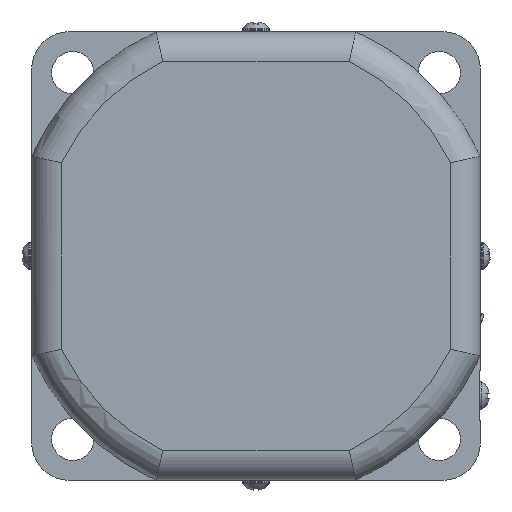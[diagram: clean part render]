
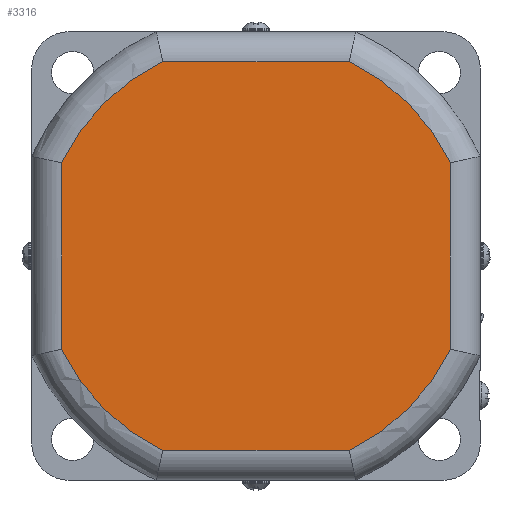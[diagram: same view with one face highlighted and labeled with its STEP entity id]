
A CAD part, left-side view. The second image highlights one B-rep face of the part: STEP entity #3316.
In plain terms, the highlighted planar face has unit normal (-1, 0, 0).
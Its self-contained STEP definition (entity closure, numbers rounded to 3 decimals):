
#307=FACE_OUTER_BOUND('',#514,.T.);
#514=EDGE_LOOP('',(#2380,#2381,#2382,#2383,#2384,#2385,#2386,#2387));
#781=LINE('',#5256,#1019);
#784=LINE('',#5276,#1022);
#785=LINE('',#5329,#1023);
#786=LINE('',#5346,#1024);
#1019=VECTOR('',#4041,37.393);
#1022=VECTOR('',#4046,37.393);
#1023=VECTOR('',#4061,37.393);
#1024=VECTOR('',#4064,37.393);
#1213=CIRCLE('',#3547,43.25);
#1214=CIRCLE('',#3551,43.25);
#1217=CIRCLE('',#3555,43.25);
#1218=CIRCLE('',#3559,43.25);
#1409=VERTEX_POINT('',#5206);
#1411=VERTEX_POINT('',#5223);
#1413=VERTEX_POINT('',#5241);
#1415=VERTEX_POINT('',#5260);
#1416=VERTEX_POINT('',#5278);
#1417=VERTEX_POINT('',#5296);
#1418=VERTEX_POINT('',#5314);
#1419=VERTEX_POINT('',#5331);
#1769=EDGE_CURVE('',#1411,#1409,#1213,.T.);
#1771=EDGE_CURVE('',#1413,#1411,#781,.T.);
#1775=EDGE_CURVE('',#1409,#1415,#784,.T.);
#1777=EDGE_CURVE('',#1416,#1413,#1214,.T.);
#1781=EDGE_CURVE('',#1415,#1417,#1217,.T.);
#1783=EDGE_CURVE('',#1418,#1416,#785,.T.);
#1785=EDGE_CURVE('',#1417,#1419,#786,.T.);
#1786=EDGE_CURVE('',#1419,#1418,#1218,.T.);
#2380=ORIENTED_EDGE('',*,*,#1785,.F.);
#2381=ORIENTED_EDGE('',*,*,#1781,.F.);
#2382=ORIENTED_EDGE('',*,*,#1775,.F.);
#2383=ORIENTED_EDGE('',*,*,#1769,.F.);
#2384=ORIENTED_EDGE('',*,*,#1771,.F.);
#2385=ORIENTED_EDGE('',*,*,#1777,.F.);
#2386=ORIENTED_EDGE('',*,*,#1783,.F.);
#2387=ORIENTED_EDGE('',*,*,#1786,.F.);
#2980=PLANE('',#3561);
#3316=ADVANCED_FACE('',(#307),#2980,.F.);
#3547=AXIS2_PLACEMENT_3D('',#5238,#4037,#4038);
#3551=AXIS2_PLACEMENT_3D('',#5293,#4049,#4050);
#3555=AXIS2_PLACEMENT_3D('',#5312,#4057,#4058);
#3559=AXIS2_PLACEMENT_3D('',#5348,#4067,#4068);
#3561=AXIS2_PLACEMENT_3D('',#5350,#4071,#4072);
#4037=DIRECTION('center_axis',(1.,0.,0.));
#4038=DIRECTION('ref_axis',(0.,-0.707,-0.707));
#4041=DIRECTION('',(0.,0.,-1.));
#4046=DIRECTION('',(0.,1.,0.));
#4049=DIRECTION('center_axis',(1.,0.,0.));
#4050=DIRECTION('ref_axis',(0.,-0.707,0.707));
#4057=DIRECTION('center_axis',(1.,0.,0.));
#4058=DIRECTION('ref_axis',(0.,0.707,-0.707));
#4061=DIRECTION('',(0.,-1.,0.));
#4064=DIRECTION('',(0.,0.,1.));
#4067=DIRECTION('center_axis',(1.,0.,0.));
#4068=DIRECTION('ref_axis',(0.,0.707,0.707));
#4071=DIRECTION('center_axis',(1.,0.,0.));
#4072=DIRECTION('ref_axis',(0.,0.,-1.));
#5206=CARTESIAN_POINT('',(-17.8,-18.697,-39.));
#5223=CARTESIAN_POINT('',(-17.8,-39.,-18.697));
#5238=CARTESIAN_POINT('Origin',(-17.8,0.,
0.));
#5241=CARTESIAN_POINT('',(-17.8,-39.,18.697));
#5256=CARTESIAN_POINT('',(-17.8,-39.,18.697));
#5260=CARTESIAN_POINT('',(-17.8,18.697,-39.));
#5276=CARTESIAN_POINT('',(-17.8,-18.697,-39.));
#5278=CARTESIAN_POINT('',(-17.8,-18.697,39.));
#5293=CARTESIAN_POINT('Origin',(-17.8,0.,
0.));
#5296=CARTESIAN_POINT('',(-17.8,39.,-18.697));
#5312=CARTESIAN_POINT('Origin',(-17.8,0.,
0.));
#5314=CARTESIAN_POINT('',(-17.8,18.697,39.));
#5329=CARTESIAN_POINT('',(-17.8,18.697,39.));
#5331=CARTESIAN_POINT('',(-17.8,39.,18.697));
#5346=CARTESIAN_POINT('',(-17.8,39.,-18.697));
#5348=CARTESIAN_POINT('Origin',(-17.8,0.,
0.));
#5350=CARTESIAN_POINT('Origin',(-17.8,0.,
0.));
